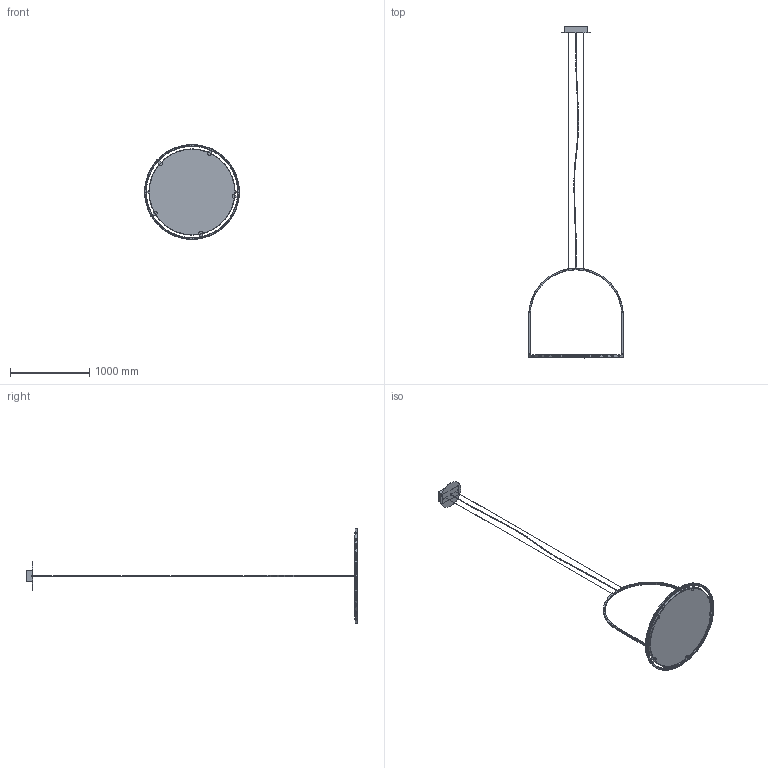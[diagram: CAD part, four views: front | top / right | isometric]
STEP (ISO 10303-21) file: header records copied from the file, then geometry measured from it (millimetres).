
FILE_DESCRIPTION (( 'STEP AP203' ), '1' );
FILE_NAME ('SPULI120-SOUND ABSORBING.STEP', '2023-09-25T17:51:47', ( '' ), ( '' ), 'SwSTEP 2.0', 'SolidWorks 2023', '' );
FILE_SCHEMA (( 'CONFIG_CONTROL_DESIGN' ));
Length unit declared in the file: millimetre
Products named in the file (22): WSCM2A0021-0733-00_1.IGS; WSCM2D0011-0733-00; WSCM2A0022-0733-00; WSCM2A0023-0733-00; WSCM2C0095-0100-00; MSPULI120LEDANXX; SPULI120-SOUND ABSORBING; SPULI120LEDANXX; WSCM2C0024-0128-00_1.IGS; WSMCROB04-----0141_1.IGS; TANG YAO-7727-P215 + RIV TESSILE 33; WSCP2F0005-0403-00; WSA5068-03-6-0-11-; Pannelli Definitivi Tappezziere_PANNELLO SPULI 120 Ø1090mm H40-45mm; WSMCVIA-04A10-0141_1.IGS; WSCM2C0028-0128-00_1.IGS; WSCA12493000A4040A; WSCEE0000000000003_1.IGS; WSASS-000000014-3D.IGS; PANNELLI TAPPEZZIERE DEFINITIVI_PANULA1093540AV; WSCM2D0008-0733-00; WSCM2C0025-0100-02_1.IGS
Assembly tree (34 placements, depth 4):
  SPULI120-SOUND ABSORBING
    SPULI120LEDANXX
      MSPULI120LEDANXX
        WSCM2D0008-0733-00
        WSCM2A0023-0733-00  x2
        WSCM2D0011-0733-00
        WSCM2A0022-0733-00
        WSCA12493000A4040A  x2
        TANG YAO-7727-P215 + RIV TESSILE 33
        WSA5068-03-6-0-11-
        WSCP2F0005-0403-00  x5
    Pannelli Definitivi Tappezziere_PANNELLO SPULI 120 Ø1090mm H40-45mm
      PANNELLI TAPPEZZIERE DEFINITIVI_PANULA1093540AV
      WSCM2C0095-0100-00  x5
    WSASS-000000014-3D.IGS
      WSCM2C0024-0128-00_1.IGS
      WSCM2C0025-0100-02_1.IGS
      WSCM2C0028-0128-00_1.IGS  x2
      WSCEE0000000000003_1.IGS
      WSMCVIA-04A10-0141_1.IGS  x2
      WSMCROB04-----0141_1.IGS  x2
      WSCM2A0021-0733-00_1.IGS
Bounding box: 1200 x 4191.74 x 1200 mm (x, y, z)
Volume: 34349755.1 mm3; surface area: 8513365.2 mm2
Topology: 33 solids, 33 shells, 1104 faces, 2720 edges, 1651 vertices
Faces by surface type: bspline 360, plane 305, cylinder 290, torus 76, cone 69, sphere 4
Entity records: 30713 total; most frequent: CARTESIAN_POINT 13383, ORIENTED_EDGE 3372, DIRECTION 2492, EDGE_CURVE 1686, VERTEX_POINT 1047, AXIS2_PLACEMENT_3D 1031, EDGE_LOOP 841, ADVANCED_FACE 699
